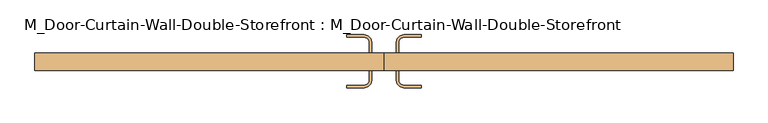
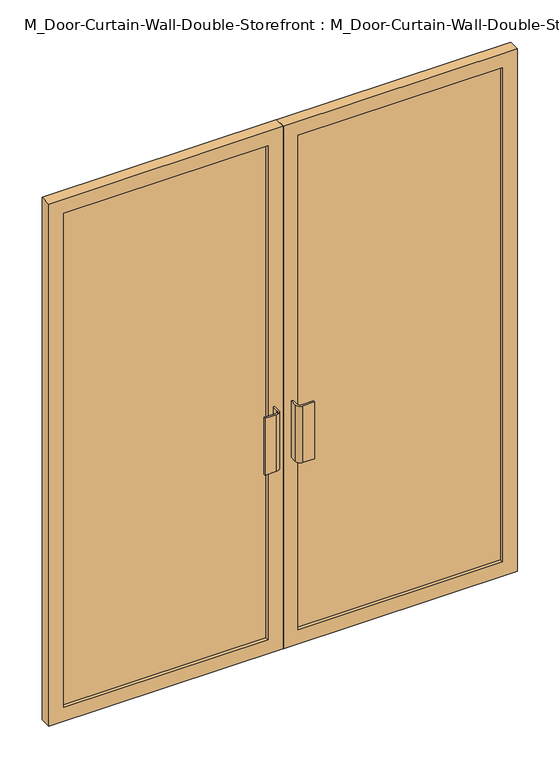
"""IFC4 building model written with IfcOpenShell, lengths in millimetres: door geometry, M_Door-Curtain-Wall-Double-Storefront : M_Door-Curtain-Wall-Double-Storefront."""

from ifc_helpers import new_model, si_unit, point, frame, frame_2d, origin, place, context, project, spatial, polyline, circle_curve, trimmed, segment, composite_curve, outline, extrude, source, transform, mapped, element, save


def m_door_curtain_wall_double_storefront_m_door_curtain_wall_2970ffc3(model_context):
    return source(origin(), model_context, "Body", "SweptSolid", [
        extrude(outline(polyline([(2110.0, 0.8168501), (0.0, 0.8168501), (0.0, 895.9473684), (2110.0, 895.9473684), (2110.0, 0.8168501)]), holes=[polyline([(2052.85, 57.9668501), (2052.85, 838.7973684), (57.15, 838.7973684), (57.15, 57.9668501), (2052.85, 57.9668501)])]), frame((0.0, -60.0, 0.0), z_axis=(0.0, 1.0, 0.0), x_axis=(0.0, 0.0, 1.0)), (0.0, 0.0, 1.0), 44.45),
        extrude(outline(polyline([(2110.0, -0.7706499), (2110.0, -895.9473684), (0.0, -895.9473684), (0.0, -0.7706499), (2110.0, -0.7706499)]), holes=[polyline([(2052.85, -838.7973684), (2052.85, -57.9206499), (57.15, -57.9206499), (57.15, -838.7973684), (2052.85, -838.7973684)])]), frame((0.0, -60.0, 0.0), z_axis=(0.0, 1.0, 0.0), x_axis=(0.0, 0.0, 1.0)), (0.0, 0.0, 1.0), 44.45),
        extrude(outline(polyline([(838.7973684, -28.25), (838.7973684, -47.3), (57.9668501, -47.3), (57.9668501, -28.25), (838.7973684, -28.25)])), frame((0.0, 0.0, 57.15), z_axis=(0.0, 0.0, 1.0), x_axis=(1.0, 0.0, 0.0)), (0.0, 0.0, 1.0), 1995.7),
        extrude(outline(polyline([(-57.9206499, -28.25), (-57.9206499, -47.3), (-838.7973684, -47.3), (-838.7973684, -28.25), (-57.9206499, -28.25)])), frame((0.0, 0.0, 57.15), z_axis=(0.0, 0.0, 1.0), x_axis=(1.0, 0.0, 0.0)), (0.0, 0.0, 1.0), 1995.7),
        extrude(outline(composite_curve([segment(polyline([(-31.7268999, 12.7), (-31.7268999, -15.55), (-38.0768999, -15.55), (-38.0768999, 12.7)]), True, "CONTINUOUS"), segment(trimmed(circle_curve(frame_2d((-50.7768999, 12.7)), 12.7), [point((-38.0768999, 12.7))], [point((-50.7768999, 25.4))], True, "CARTESIAN"), True, "CONTINUOUS"), segment(polyline([(-50.7768999, 25.4), (-95.2268999, 25.4), (-95.2268999, 31.75), (-50.7768999, 31.75)]), True, "CONTINUOUS"), segment(trimmed(circle_curve(frame_2d((-50.7768999, 12.7)), 19.05), [point((-50.7768999, 31.75))], [point((-31.7268999, 12.7))], False, "CARTESIAN"), True, "CONTINUOUS")], self_intersect=False)), frame((0.0, 0.0, 762.0), z_axis=(0.0, 0.0, 1.0), x_axis=(1.0, 0.0, 0.0)), (0.0, 0.0, 1.0), 228.6),
        extrude(outline(composite_curve([segment(trimmed(circle_curve(frame_2d((50.8231001, 12.7)), 19.05), [point((31.7731001, 12.7))], [point((50.8231001, 31.75))], False, "CARTESIAN"), True, "CONTINUOUS"), segment(polyline([(50.8231001, 31.75), (95.2731001, 31.75), (95.2731001, 25.4), (50.8231001, 25.4)]), True, "CONTINUOUS"), segment(trimmed(circle_curve(frame_2d((50.8231001, 12.7)), 12.7), [point((50.8231001, 25.4))], [point((38.1231001, 12.7))], True, "CARTESIAN"), True, "CONTINUOUS"), segment(polyline([(38.1231001, 12.7), (38.1231001, -15.55), (31.7731001, -15.55), (31.7731001, 12.7)]), True, "CONTINUOUS")], self_intersect=False)), frame((0.0, 0.0, 762.0), z_axis=(0.0, 0.0, 1.0), x_axis=(1.0, 0.0, 0.0)), (0.0, 0.0, 1.0), 228.6),
        extrude(outline(composite_curve([segment(trimmed(circle_curve(frame_2d((-50.7768999, -85.4)), 19.05), [point((-31.7268999, -85.4))], [point((-50.7768999, -104.45))], False, "CARTESIAN"), True, "CONTINUOUS"), segment(polyline([(-50.7768999, -104.45), (-95.2268999, -104.45), (-95.2268999, -98.1), (-50.7768999, -98.1)]), True, "CONTINUOUS"), segment(trimmed(circle_curve(frame_2d((-50.7768999, -85.4)), 12.7), [point((-50.7768999, -98.1))], [point((-38.0768999, -85.4))], True, "CARTESIAN"), True, "CONTINUOUS"), segment(polyline([(-38.0768999, -85.4), (-38.0768999, -60.0), (-31.7268999, -60.0), (-31.7268999, -85.4)]), True, "CONTINUOUS")], self_intersect=False)), frame((0.0, 0.0, 762.0), z_axis=(0.0, 0.0, 1.0), x_axis=(1.0, 0.0, 0.0)), (0.0, 0.0, 1.0), 228.6),
        extrude(outline(composite_curve([segment(polyline([(31.7731001, -85.4), (31.7731001, -60.0), (38.1231001, -60.0), (38.1231001, -85.4)]), True, "CONTINUOUS"), segment(trimmed(circle_curve(frame_2d((50.8231001, -85.4)), 12.7), [point((38.1231001, -85.4))], [point((50.8231001, -98.1))], True, "CARTESIAN"), True, "CONTINUOUS"), segment(polyline([(50.8231001, -98.1), (95.2731001, -98.1), (95.2731001, -104.45), (50.8231001, -104.45)]), True, "CONTINUOUS"), segment(trimmed(circle_curve(frame_2d((50.8231001, -85.4)), 19.05), [point((50.8231001, -104.45))], [point((31.7731001, -85.4))], False, "CARTESIAN"), True, "CONTINUOUS")], self_intersect=False)), frame((0.0, 0.0, 762.0), z_axis=(0.0, 0.0, 1.0), x_axis=(1.0, 0.0, 0.0)), (0.0, 0.0, 1.0), 228.6),
    ])


if __name__ == "__main__":
    model = new_model("IFC4")
    model_context = context("Model", 3, world=origin())
    ifc_project = project(units=[si_unit("LENGTHUNIT", "METRE", prefix="MILLI")], contexts=[model_context])
    site = spatial("IfcSite", under=ifc_project)
    building = spatial("IfcBuilding", under=site)
    placement = place(None, origin())
    m_door_curtain_wall_double_storefront_m_door_curtain_wall_shape = m_door_curtain_wall_double_storefront_m_door_curtain_wall_2970ffc3(model_context)
    element("IfcDoor", 1, ObjectType="M_Door-Curtain-Wall-Double-Storefront : M_Door-Curtain-Wall-Double-Storefront", at=placement, inside=building, context=model_context, shape_type="MappedRepresentation", body=[
        mapped(m_door_curtain_wall_double_storefront_m_door_curtain_wall_shape, transform((0.0, 0.0, 0.0), x_axis=(1.0, 0.0, 0.0), y_axis=(0.0, 1.0, 0.0), z_axis=(0.0, 0.0, 1.0))),
    ])
    save(model, "model.ifc")
